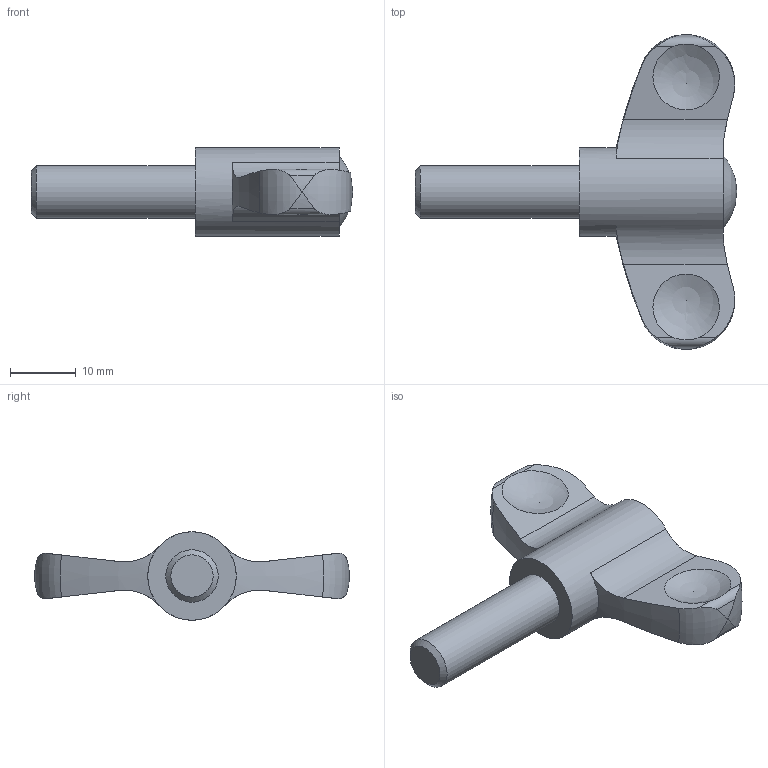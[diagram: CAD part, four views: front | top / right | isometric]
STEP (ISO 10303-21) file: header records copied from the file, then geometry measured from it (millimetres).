
FILE_DESCRIPTION( ( 'STEP AP203' ), '1' );
FILE_NAME( 'C:/Temp/Ganter_Step_05_03_2020/data/2_2/gn_633/Wing nut GN 633-48-M8-25-DSG.stp', '2020-03-05T12:20:47', ( 'License CC BY-ND 4.0' ), ( 'CADENAS' ), ' ', 'PARTsolutions', ' ' );
FILE_SCHEMA( ( 'CONFIG_CONTROL_DESIGN' ) );
Length unit declared in the file: millimetre
Products named in the file (1): _Wing nut GN 633-48-M8-25-DSG
Bounding box: 49 x 48 x 13.5 mm (x, y, z)
Volume: 6943.2 mm3; surface area: 3164.7 mm2
Topology: 1 solids, 1 shells, 33 faces, 102 edges, 68 vertices
Faces by surface type: cylinder 14, sphere 7, plane 7, bspline 2, torus 2, cone 1
Full cylindrical faces by diameter (mm): 8 x1, 13.5 x1
Entity records: 1450 total; most frequent: CARTESIAN_POINT 638, ORIENTED_EDGE 166, DIRECTION 138, EDGE_CURVE 83, VERTEX_POINT 63, AXIS2_PLACEMENT_3D 59, EDGE_LOOP 38, B_SPLINE_CURVE_WITH_KNOTS 36
